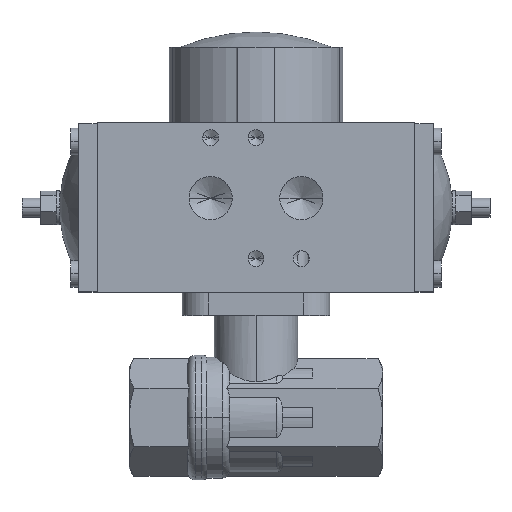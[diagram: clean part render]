
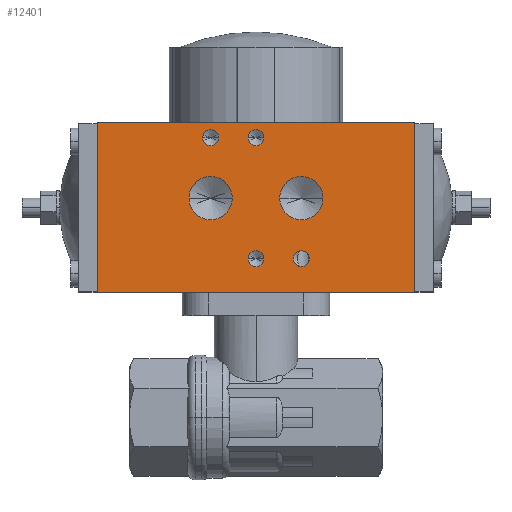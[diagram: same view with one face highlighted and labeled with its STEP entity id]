
A CAD part, top view. The second image highlights one B-rep face of the part: STEP entity #12401.
In plain terms, the highlighted planar face has unit normal (0, 0, 1) as drawn and (1, 0, 0) by its records, which use the part's own axes.
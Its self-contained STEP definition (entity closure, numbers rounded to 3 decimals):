
#672 = EDGE_LOOP ( 'NONE', ( #3842, #3936 ) ) ;
#673 = EDGE_LOOP ( 'NONE', ( #3846, #3839, #3871, #3937 ) ) ;
#2230 = CARTESIAN_POINT ( 'NONE',  ( 28.5, 2.5, 6.277 ) ) ;
#2231 = CARTESIAN_POINT ( 'NONE',  ( 28.5, 2.5, 17.722 ) ) ;
#2235 = CARTESIAN_POINT ( 'NONE',  ( 28.5, 2.5, -17.722 ) ) ;
#2236 = CARTESIAN_POINT ( 'NONE',  ( 28.5, 2.5, -6.277 ) ) ;
#2254 = CARTESIAN_POINT ( 'NONE',  ( 28.5, 18.5, -2.1 ) ) ;
#3673 = VERTEX_POINT ( 'NONE', #5487 ) ;
#3674 = VERTEX_POINT ( 'NONE', #5488 ) ;
#3682 = VERTEX_POINT ( 'NONE', #5496 ) ;
#3683 = VERTEX_POINT ( 'NONE', #5497 ) ;
#3839 = ORIENTED_EDGE ( 'NONE', *, *, #12319, .F. ) ;
#3842 = ORIENTED_EDGE ( 'NONE', *, *, #11245, .F. ) ;
#3846 = ORIENTED_EDGE ( 'NONE', *, *, #11243, .T. ) ;
#3871 = ORIENTED_EDGE ( 'NONE', *, *, #6156, .F. ) ;
#3882 = ORIENTED_EDGE ( 'NONE', *, *, #11241, .F. ) ;
#3902 = ORIENTED_EDGE ( 'NONE', *, *, #5975, .F. ) ;
#3932 = ORIENTED_EDGE ( 'NONE', *, *, #9299, .F. ) ;
#3933 = ORIENTED_EDGE ( 'NONE', *, *, #11242, .F. ) ;
#3935 = ORIENTED_EDGE ( 'NONE', *, *, #11244, .F. ) ;
#3936 = ORIENTED_EDGE ( 'NONE', *, *, #9291, .F. ) ;
#3937 = ORIENTED_EDGE ( 'NONE', *, *, #12387, .T. ) ;
#3938 = ORIENTED_EDGE ( 'NONE', *, *, #11240, .F. ) ;
#3939 = ORIENTED_EDGE ( 'NONE', *, *, #6126, .F. ) ;
#3940 = ORIENTED_EDGE ( 'NONE', *, *, #12361, .F. ) ;
#3941 = ORIENTED_EDGE ( 'NONE', *, *, #12372, .F. ) ;
#3944 = ORIENTED_EDGE ( 'NONE', *, *, #9303, .F. ) ;
#4004 = VERTEX_POINT ( 'NONE', #5614 ) ;
#4006 = VERTEX_POINT ( 'NONE', #5616 ) ;
#4010 = VERTEX_POINT ( 'NONE', #5620 ) ;
#4013 = VERTEX_POINT ( 'NONE', #5623 ) ;
#4020 = VERTEX_POINT ( 'NONE', #5630 ) ;
#4026 = VERTEX_POINT ( 'NONE', #5636 ) ;
#4029 = VERTEX_POINT ( 'NONE', #5639 ) ;
#4920 = CIRCLE ( 'NONE', #4925, 2.1 ) ;
#4922 = CIRCLE ( 'NONE', #4932, 5.722 ) ;
#4924 = CIRCLE ( 'NONE', #4927, 2.1 ) ;
#4925 = AXIS2_PLACEMENT_3D ( 'NONE', #9719, #9720, #9721 ) ;
#4926 = CIRCLE ( 'NONE', #4929, 2.1 ) ;
#4927 = AXIS2_PLACEMENT_3D ( 'NONE', #9724, #9725, #9726 ) ;
#4928 = VECTOR ( 'NONE', #9730, 1000. ) ;
#4929 = AXIS2_PLACEMENT_3D ( 'NONE', #9727, #9728, #9729 ) ;
#4930 = CIRCLE ( 'NONE', #4934, 2.1 ) ;
#4932 = AXIS2_PLACEMENT_3D ( 'NONE', #9731, #9732, #9733 ) ;
#4934 = AXIS2_PLACEMENT_3D ( 'NONE', #9735, #9736, #9737 ) ;
#5042 = VECTOR ( 'NONE', #10043, 1000. ) ;
#5108 = CIRCLE ( 'NONE', #5112, 5.722 ) ;
#5112 = AXIS2_PLACEMENT_3D ( 'NONE', #10192, #10193, #10194 ) ;
#5122 = CIRCLE ( 'NONE', #5130, 5.722 ) ;
#5130 = AXIS2_PLACEMENT_3D ( 'NONE', #10224, #10225, #10226 ) ;
#5151 = VECTOR ( 'NONE', #10270, 1000. ) ;
#5171 = AXIS2_PLACEMENT_3D ( 'NONE', #8189, #8190, #8191 ) ;
#5487 = CARTESIAN_POINT ( 'NONE',  ( 28.5, 22.5, 42. ) ) ;
#5488 = CARTESIAN_POINT ( 'NONE',  ( 28.5, -22.5, 42. ) ) ;
#5496 = CARTESIAN_POINT ( 'NONE',  ( 28.5, 22.5, -42. ) ) ;
#5497 = CARTESIAN_POINT ( 'NONE',  ( 28.5, -22.5, -42. ) ) ;
#5614 = CARTESIAN_POINT ( 'NONE',  ( 28.5, -13.5, -9.9 ) ) ;
#5616 = CARTESIAN_POINT ( 'NONE',  ( 28.5, -13.5, -14.1 ) ) ;
#5620 = CARTESIAN_POINT ( 'NONE',  ( 28.5, -13.5, 2.1 ) ) ;
#5623 = CARTESIAN_POINT ( 'NONE',  ( 28.5, 18.5, 14.1 ) ) ;
#5630 = CARTESIAN_POINT ( 'NONE',  ( 28.5, 18.5, 2.1 ) ) ;
#5636 = CARTESIAN_POINT ( 'NONE',  ( 28.5, -13.5, -2.1 ) ) ;
#5639 = CARTESIAN_POINT ( 'NONE',  ( 28.5, 18.5, 9.9 ) ) ;
#5689 = CARTESIAN_POINT ( 'NONE',  ( 28.5, -13.5, 0. ) ) ;
#5690 = DIRECTION ( 'NONE',  ( 1., 0., 0. ) ) ;
#5691 = DIRECTION ( 'NONE',  ( 0., 0., -1. ) ) ;
#5975 = EDGE_CURVE ( 'NONE', #4010, #4026, #6974, .T. ) ;
#6126 = EDGE_CURVE ( 'NONE', #6887, #6888, #7312, .T. ) ;
#6156 = EDGE_CURVE ( 'NONE', #3683, #3674, #10660, .T. ) ;
#6254 = EDGE_LOOP ( 'NONE', ( #3938, #3932 ) ) ;
#6259 = EDGE_LOOP ( 'NONE', ( #3939, #3941 ) ) ;
#6267 = EDGE_LOOP ( 'NONE', ( #3933, #3944 ) ) ;
#6268 = EDGE_LOOP ( 'NONE', ( #3935, #3940 ) ) ;
#6269 = EDGE_LOOP ( 'NONE', ( #3882, #3902 ) ) ;
#6887 = VERTEX_POINT ( 'NONE', #2230 ) ;
#6888 = VERTEX_POINT ( 'NONE', #2231 ) ;
#6892 = VERTEX_POINT ( 'NONE', #2235 ) ;
#6893 = VERTEX_POINT ( 'NONE', #2236 ) ;
#6916 = VERTEX_POINT ( 'NONE', #2254 ) ;
#6968 = AXIS2_PLACEMENT_3D ( 'NONE', #5689, #5690, #5691 ) ;
#6974 = CIRCLE ( 'NONE', #6968, 2.1 ) ;
#7312 = CIRCLE ( 'NONE', #7316, 5.722 ) ;
#7316 = AXIS2_PLACEMENT_3D ( 'NONE', #10581, #10582, #10583 ) ;
#7396 = VECTOR ( 'NONE', #10672, 1000. ) ;
#7950 = CIRCLE ( 'NONE', #7971, 2.1 ) ;
#7971 = AXIS2_PLACEMENT_3D ( 'NONE', #12117, #12118, #12119 ) ;
#7976 = CIRCLE ( 'NONE', #7978, 2.1 ) ;
#7978 = AXIS2_PLACEMENT_3D ( 'NONE', #12131, #12132, #12133 ) ;
#7979 = CIRCLE ( 'NONE', #7981, 2.1 ) ;
#7981 = AXIS2_PLACEMENT_3D ( 'NONE', #12138, #12139, #12140 ) ;
#8185 = FACE_BOUND ( 'NONE', #6267, .T. ) ;
#8188 = PLANE ( 'NONE',  #5171 ) ;
#8189 = CARTESIAN_POINT ( 'NONE',  ( 28.5, -22.5, -42. ) ) ;
#8190 = DIRECTION ( 'NONE',  ( 1., 0., 0. ) ) ;
#8191 = DIRECTION ( 'NONE',  ( 0., 0., -1. ) ) ;
#9291 = EDGE_CURVE ( 'NONE', #4013, #4029, #7950, .T. ) ;
#9299 = EDGE_CURVE ( 'NONE', #4004, #4006, #7976, .T. ) ;
#9303 = EDGE_CURVE ( 'NONE', #4020, #6916, #7979, .T. ) ;
#9719 = CARTESIAN_POINT ( 'NONE',  ( 28.5, -13.5, -12. ) ) ;
#9720 = DIRECTION ( 'NONE',  ( 1., 0., 0. ) ) ;
#9721 = DIRECTION ( 'NONE',  ( 0., 0., -1. ) ) ;
#9722 = LINE ( 'NONE', #9723, #4928 ) ;
#9723 = CARTESIAN_POINT ( 'NONE',  ( 28.5, 22.5, -42. ) ) ;
#9724 = CARTESIAN_POINT ( 'NONE',  ( 28.5, -13.5, 0. ) ) ;
#9725 = DIRECTION ( 'NONE',  ( 1., 0., 0. ) ) ;
#9726 = DIRECTION ( 'NONE',  ( 0., 0., -1. ) ) ;
#9727 = CARTESIAN_POINT ( 'NONE',  ( 28.5, 18.5, 0. ) ) ;
#9728 = DIRECTION ( 'NONE',  ( 1., 0., 0. ) ) ;
#9729 = DIRECTION ( 'NONE',  ( 0., 0., -1. ) ) ;
#9730 = DIRECTION ( 'NONE',  ( 0., 0., 1. ) ) ;
#9731 = CARTESIAN_POINT ( 'NONE',  ( 28.5, 2.5, -12. ) ) ;
#9732 = DIRECTION ( 'NONE',  ( 1., 0., 0. ) ) ;
#9733 = DIRECTION ( 'NONE',  ( 0., 0., -1. ) ) ;
#9735 = CARTESIAN_POINT ( 'NONE',  ( 28.5, 18.5, 12. ) ) ;
#9736 = DIRECTION ( 'NONE',  ( 1., 0., 0. ) ) ;
#9737 = DIRECTION ( 'NONE',  ( 0., 0., -1. ) ) ;
#10031 = LINE ( 'NONE', #10041, #5042 ) ;
#10041 = CARTESIAN_POINT ( 'NONE',  ( 28.5, -22.5, 42. ) ) ;
#10043 = DIRECTION ( 'NONE',  ( 0., 1., 0. ) ) ;
#10192 = CARTESIAN_POINT ( 'NONE',  ( 28.5, 2.5, -12. ) ) ;
#10193 = DIRECTION ( 'NONE',  ( 1., 0., 0. ) ) ;
#10194 = DIRECTION ( 'NONE',  ( 0., 0., -1. ) ) ;
#10224 = CARTESIAN_POINT ( 'NONE',  ( 28.5, 2.5, 12. ) ) ;
#10225 = DIRECTION ( 'NONE',  ( 1., 0., 0. ) ) ;
#10226 = DIRECTION ( 'NONE',  ( 0., 0., -1. ) ) ;
#10268 = LINE ( 'NONE', #10269, #5151 ) ;
#10269 = CARTESIAN_POINT ( 'NONE',  ( 28.5, -22.5, -42. ) ) ;
#10270 = DIRECTION ( 'NONE',  ( 0., 1., 0. ) ) ;
#10318 = FACE_BOUND ( 'NONE', #6254, .T. ) ;
#10321 = FACE_BOUND ( 'NONE', #6268, .T. ) ;
#10322 = FACE_BOUND ( 'NONE', #672, .T. ) ;
#10323 = FACE_BOUND ( 'NONE', #6259, .T. ) ;
#10324 = FACE_OUTER_BOUND ( 'NONE', #673, .T. ) ;
#10325 = FACE_BOUND ( 'NONE', #6269, .T. ) ;
#10581 = CARTESIAN_POINT ( 'NONE',  ( 28.5, 2.5, 12. ) ) ;
#10582 = DIRECTION ( 'NONE',  ( 1., 0., 0. ) ) ;
#10583 = DIRECTION ( 'NONE',  ( 0., 0., -1. ) ) ;
#10660 = LINE ( 'NONE', #10670, #7396 ) ;
#10670 = CARTESIAN_POINT ( 'NONE',  ( 28.5, -22.5, -42. ) ) ;
#10672 = DIRECTION ( 'NONE',  ( 0., 0., 1. ) ) ;
#11240 = EDGE_CURVE ( 'NONE', #4006, #4004, #4920, .T. ) ;
#11241 = EDGE_CURVE ( 'NONE', #4026, #4010, #4924, .T. ) ;
#11242 = EDGE_CURVE ( 'NONE', #6916, #4020, #4926, .T. ) ;
#11243 = EDGE_CURVE ( 'NONE', #3682, #3673, #9722, .T. ) ;
#11244 = EDGE_CURVE ( 'NONE', #6892, #6893, #4922, .T. ) ;
#11245 = EDGE_CURVE ( 'NONE', #4029, #4013, #4930, .T. ) ;
#12117 = CARTESIAN_POINT ( 'NONE',  ( 28.5, 18.5, 12. ) ) ;
#12118 = DIRECTION ( 'NONE',  ( 1., 0., 0. ) ) ;
#12119 = DIRECTION ( 'NONE',  ( 0., 0., -1. ) ) ;
#12131 = CARTESIAN_POINT ( 'NONE',  ( 28.5, -13.5, -12. ) ) ;
#12132 = DIRECTION ( 'NONE',  ( 1., 0., 0. ) ) ;
#12133 = DIRECTION ( 'NONE',  ( 0., 0., -1. ) ) ;
#12138 = CARTESIAN_POINT ( 'NONE',  ( 28.5, 18.5, 0. ) ) ;
#12139 = DIRECTION ( 'NONE',  ( 1., 0., 0. ) ) ;
#12140 = DIRECTION ( 'NONE',  ( 0., 0., -1. ) ) ;
#12319 = EDGE_CURVE ( 'NONE', #3674, #3673, #10031, .T. ) ;
#12361 = EDGE_CURVE ( 'NONE', #6893, #6892, #5108, .T. ) ;
#12372 = EDGE_CURVE ( 'NONE', #6888, #6887, #5122, .T. ) ;
#12387 = EDGE_CURVE ( 'NONE', #3683, #3682, #10268, .T. ) ;
#12401 = ADVANCED_FACE ( 'NONE', ( #10322, #10318, #10325, #8185, #10321, #10323, #10324 ), #8188, .T. ) ;
